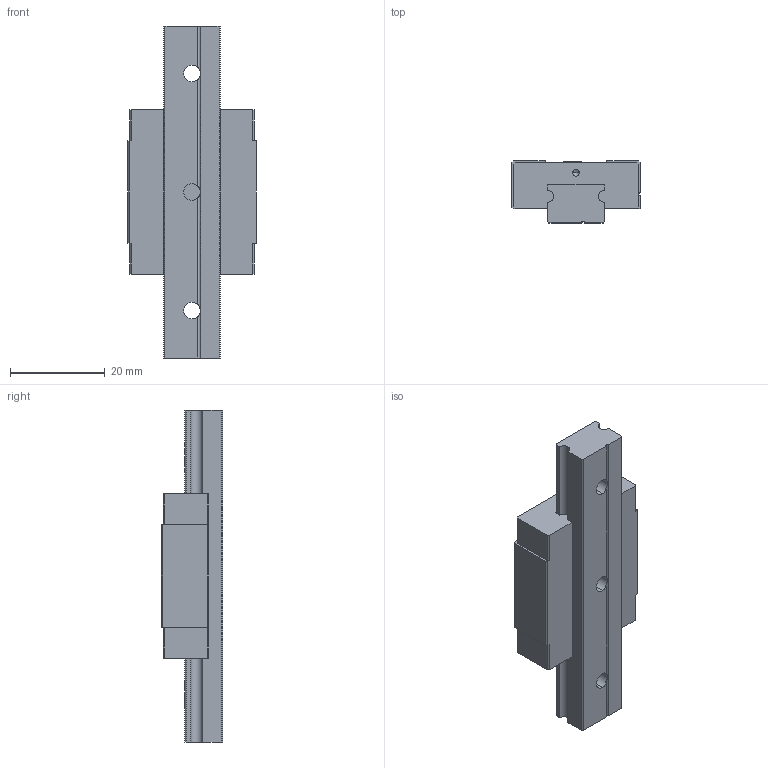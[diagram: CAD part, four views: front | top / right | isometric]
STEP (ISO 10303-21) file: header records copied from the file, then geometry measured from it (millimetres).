
FILE_DESCRIPTION (( 'STEP AP214' ), '1' );
FILE_NAME ('7.1057 Lineaarikelkka MTN12C.STEP', '2026-03-13T11:50:39', ( '' ), ( '' ), 'SwSTEP 2.0', 'SolidWorks 2025', '' );
FILE_SCHEMA (( 'AUTOMOTIVE_DESIGN' ));
Length unit declared in the file: millimetre
Products named in the file (1): 7.1057 Lineaarikelkka MTN12C
Bounding box: 27 x 13 x 70 mm (x, y, z)
Volume: 12978.6 mm3; surface area: 7020.7 mm2
Topology: 2 solids, 2 shells, 205 faces, 557 edges, 362 vertices
Faces by surface type: plane 130, cylinder 33, bspline 30, cone 12
Entity records: 10669 total; most frequent: CARTESIAN_POINT 3401, ORIENTED_EDGE 1090, DIRECTION 905, EDGE_CURVE 545, LINE 411, VECTOR 411, VERTEX_POINT 362, AXIS2_PLACEMENT_3D 247
